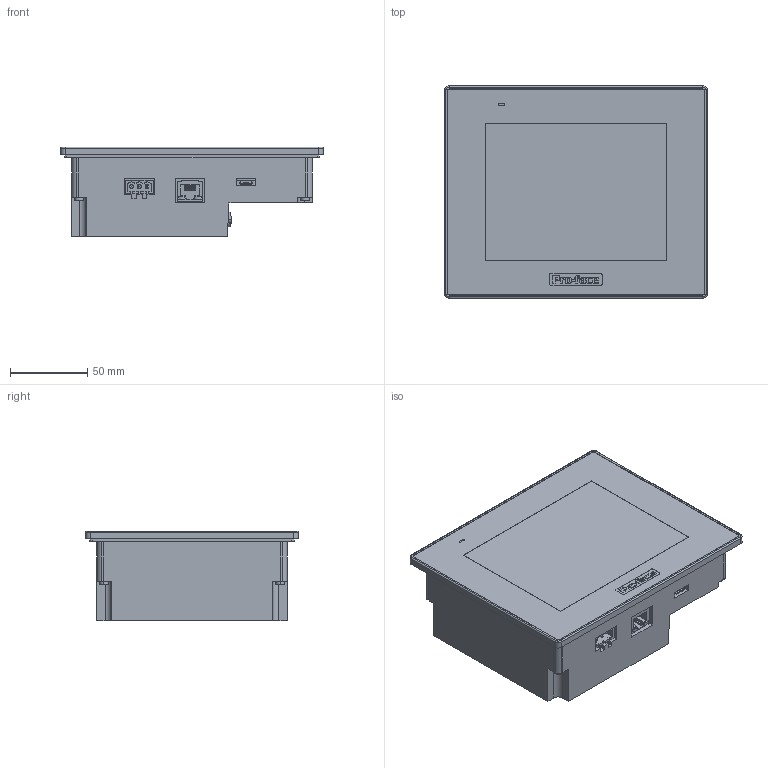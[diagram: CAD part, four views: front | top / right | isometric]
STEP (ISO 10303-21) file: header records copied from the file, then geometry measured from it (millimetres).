
FILE_DESCRIPTION((''),'2;1');
FILE_NAME('PF_ST6000_OP_5_ASM_1_ASM','2022-08-25T15:59:11',('danae.LAVAUD'),(''),'CREO PARAMETRIC BY PTC INC, 2018260','CREO PARAMETRIC BY PTC INC, 2018260','');
FILE_SCHEMA(('CONFIG_CONTROL_DESIGN'));
Products named in the file (15): PRT0005_1_1; PRT0006_1_1; PRT0007_6_1; PRT0008_1_1_1; PRT0008_1_2_1; PRT0008_1_3_1; PRT0008_1_4_1; PRT0008_1_ASM_1_ASM; PRT0009_1_1; PRT0010_2_1; PRT0011_1_1; PRT0012_2_1; PRT0013_2_1; PRT0014_1_1; PF_ST6000_OP_5_ASM_1_ASM
Assembly tree (15 placements, depth 3):
  PF_ST6000_OP_5_ASM_1_ASM
    PRT0005_1_1
    PRT0006_1_1
    PRT0007_6_1
    PRT0008_1_ASM_1_ASM
      PRT0008_1_1_1
      PRT0008_1_2_1
      PRT0008_1_3_1
      PRT0008_1_4_1
    PRT0009_1_1
    PRT0010_2_1
    PRT0011_1_1
    PRT0012_2_1
    PRT0013_2_1  x2
    PRT0014_1_1
Bounding box: 169.5 x 137 x 58 mm (x, y, z)
Volume: 955386.9 mm3; surface area: 177109.7 mm2
Topology: 14 solids, 14 shells, 844 faces, 2212 edges, 1459 vertices
Faces by surface type: plane 541, cylinder 263, bspline 36, torus 4
Entity records: 24266 total; most frequent: CARTESIAN_POINT 4685, DIRECTION 4038, ORIENTED_EDGE 4016, EDGE_CURVE 2008, VECTOR 1478, LINE 1478, VERTEX_POINT 1329, AXIS2_PLACEMENT_3D 1280
